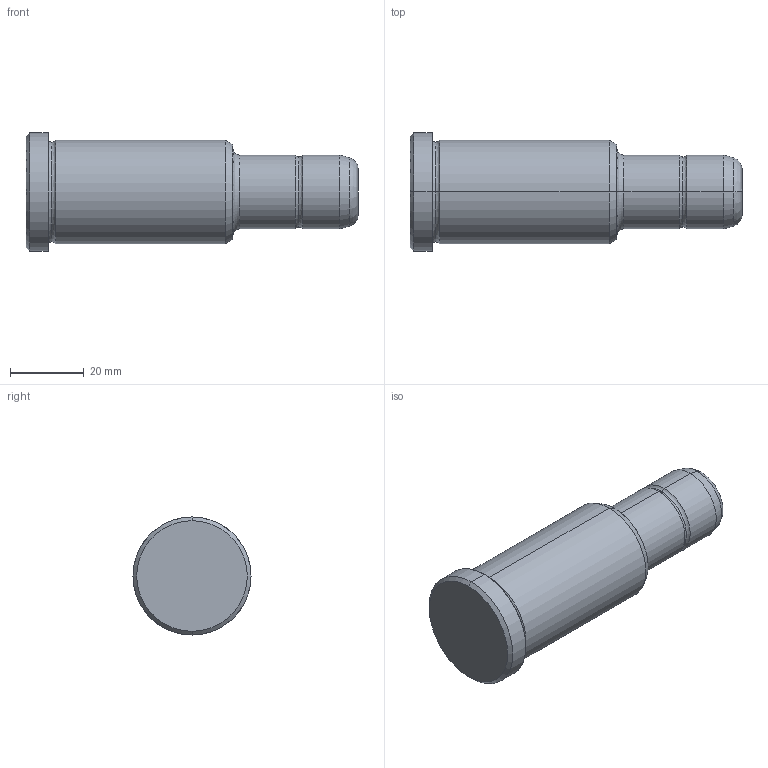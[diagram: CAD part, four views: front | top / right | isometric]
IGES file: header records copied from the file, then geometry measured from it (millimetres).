
Start section: START RECORD GO HERE.
Global section: file name: 351-20X56X90.igs; native system: DASSAULT SYSTEMES CATIA V5 R20 - www.3ds.com; preprocessor: CATIA Version 5 Release 20 ; author: Utente; organization: NB04-ASUS; date: 20210827.145051; units: millimetre
Bounding box: 90 x 32 x 32 mm (x, y, z)
Surface area: 8465.1 mm2 (no closed solid volume)
Topology: 0 solids, 0 shells, 30 faces, 172 edges, 172 vertices
Faces by surface type: revolution 26, plane 4
